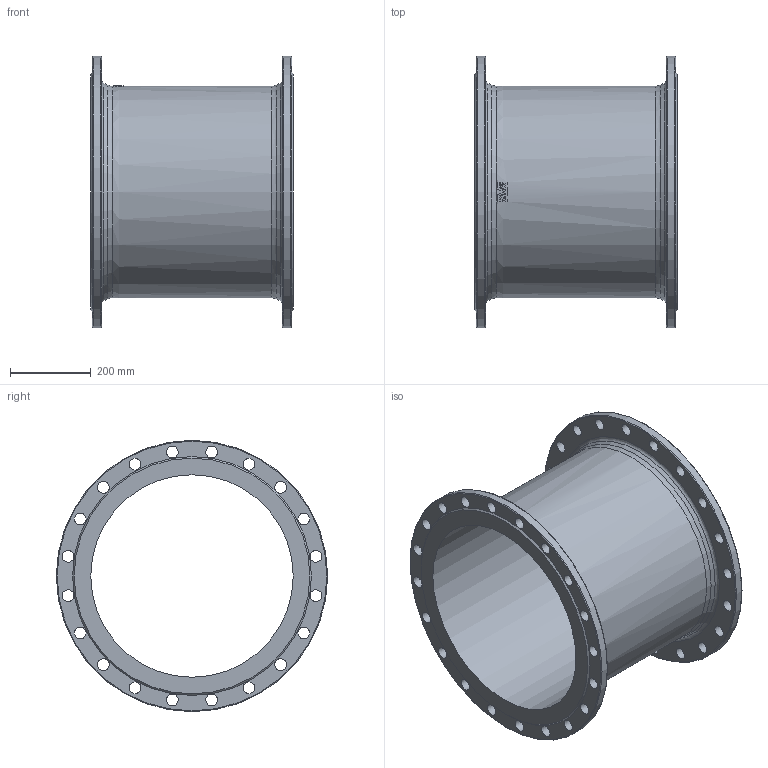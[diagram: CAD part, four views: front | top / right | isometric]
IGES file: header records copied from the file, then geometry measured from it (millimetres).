
Start section: SolidWorks IGES file using analytic representation for surfaces
Global section: file name: \\avksan2\techshare\PBM outline export from Enovia\O_712_4810_DN500_0X_REV01.igs; native system: SolidWorks 2019; preprocessor: SolidWorks 2019; author: pbm; date: 211202.090701; units: millimetre
Bounding box: 500 x 670 x 670 mm (x, y, z)
Surface area: 2201180.9 mm2 (no closed solid volume)
Topology: 0 solids, 0 shells, 103 faces, 527 edges, 470 vertices
Faces by surface type: revolution 60, bspline 43
